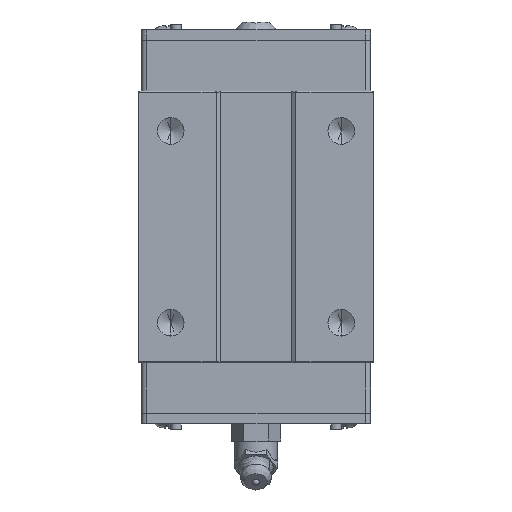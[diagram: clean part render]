
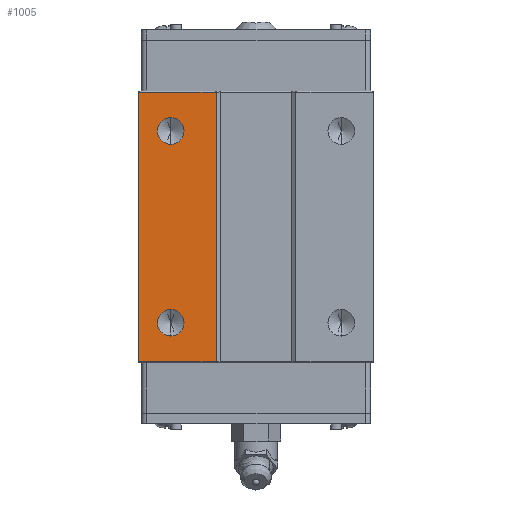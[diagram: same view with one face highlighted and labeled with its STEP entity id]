
A CAD part, front view. The second image highlights one B-rep face of the part: STEP entity #1005.
In plain terms, the highlighted planar face has unit normal (0, -1, 0).
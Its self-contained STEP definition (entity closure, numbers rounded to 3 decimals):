
#11 = VECTOR ( 'NONE', #7289, 1000. ) ;
#72 = EDGE_CURVE ( 'NONE', #8684, #17659, #15388, .T. ) ;
#131 = CARTESIAN_POINT ( 'NONE',  ( -16., -13., -18. ) ) ;
#327 = ORIENTED_EDGE ( 'NONE', *, *, #72, .T. ) ;
#700 = PLANE ( 'NONE',  #3547 ) ;
#963 = VECTOR ( 'NONE', #8181, 1000. ) ;
#1005 = ADVANCED_FACE ( 'NONE', ( #10201, #18131, #1628 ), #700, .F. ) ;
#1223 = CARTESIAN_POINT ( 'NONE',  ( 0., -13., -25.3 ) ) ;
#1494 = VERTEX_POINT ( 'NONE', #9854 ) ;
#1628 = FACE_OUTER_BOUND ( 'NONE', #9961, .T. ) ;
#1631 = EDGE_CURVE ( 'NONE', #1494, #2224, #10178, .T. ) ;
#1644 = DIRECTION ( 'NONE',  ( 0., 0., -1. ) ) ;
#1913 = EDGE_LOOP ( 'NONE', ( #15337, #14703 ) ) ;
#2189 = DIRECTION ( 'NONE',  ( 0., 0., 1. ) ) ;
#2224 = VERTEX_POINT ( 'NONE', #13749 ) ;
#2395 = AXIS2_PLACEMENT_3D ( 'NONE', #14285, #5325, #15769 ) ;
#3547 = AXIS2_PLACEMENT_3D ( 'NONE', #18531, #14064, #2189 ) ;
#3708 = LINE ( 'NONE', #16995, #7650 ) ;
#3715 = CIRCLE ( 'NONE', #5690, 2.5 ) ;
#5183 = EDGE_CURVE ( 'NONE', #10127, #6584, #17322, .T. ) ;
#5325 = DIRECTION ( 'NONE',  ( 0., -1., 0. ) ) ;
#5653 = DIRECTION ( 'NONE',  ( 0., -1., 0. ) ) ;
#5690 = AXIS2_PLACEMENT_3D ( 'NONE', #14608, #5653, #16101 ) ;
#6053 = CARTESIAN_POINT ( 'NONE',  ( -16., -13., 18. ) ) ;
#6378 = CARTESIAN_POINT ( 'NONE',  ( -16., -13., -15.5 ) ) ;
#6423 = CIRCLE ( 'NONE', #16656, 2.5 ) ;
#6584 = VERTEX_POINT ( 'NONE', #6378 ) ;
#6817 = EDGE_CURVE ( 'NONE', #9338, #11602, #8331, .T. ) ;
#7289 = DIRECTION ( 'NONE',  ( -1., 0., 0. ) ) ;
#7549 = DIRECTION ( 'NONE',  ( 0., 0., -1. ) ) ;
#7650 = VECTOR ( 'NONE', #9464, 1000. ) ;
#8181 = DIRECTION ( 'NONE',  ( 0., 0., 1. ) ) ;
#8331 = CIRCLE ( 'NONE', #2395, 2.5 ) ;
#8684 = VERTEX_POINT ( 'NONE', #11476 ) ;
#8780 = CARTESIAN_POINT ( 'NONE',  ( -22., -13., 25.3 ) ) ;
#9338 = VERTEX_POINT ( 'NONE', #16545 ) ;
#9464 = DIRECTION ( 'NONE',  ( 0., 0., 1. ) ) ;
#9594 = ORIENTED_EDGE ( 'NONE', *, *, #12526, .T. ) ;
#9717 = VECTOR ( 'NONE', #13144, 1000. ) ;
#9854 = CARTESIAN_POINT ( 'NONE',  ( -22., -13., -25.3 ) ) ;
#9961 = EDGE_LOOP ( 'NONE', ( #13065, #17246, #9594, #327 ) ) ;
#10127 = VERTEX_POINT ( 'NONE', #18770 ) ;
#10178 = LINE ( 'NONE', #1223, #9717 ) ;
#10201 = FACE_BOUND ( 'NONE', #10844, .T. ) ;
#10513 = DIRECTION ( 'NONE',  ( 0., -1., 0. ) ) ;
#10844 = EDGE_LOOP ( 'NONE', ( #14895, #12100 ) ) ;
#11117 = CARTESIAN_POINT ( 'NONE',  ( -7.5, -13., -25.5 ) ) ;
#11476 = CARTESIAN_POINT ( 'NONE',  ( -7.5, -13., 25.3 ) ) ;
#11602 = VERTEX_POINT ( 'NONE', #17106 ) ;
#12100 = ORIENTED_EDGE ( 'NONE', *, *, #6817, .F. ) ;
#12526 = EDGE_CURVE ( 'NONE', #2224, #8684, #16809, .T. ) ;
#13065 = ORIENTED_EDGE ( 'NONE', *, *, #13101, .F. ) ;
#13101 = EDGE_CURVE ( 'NONE', #1494, #17659, #3708, .T. ) ;
#13144 = DIRECTION ( 'NONE',  ( 1., 0., 0. ) ) ;
#13733 = EDGE_CURVE ( 'NONE', #6584, #10127, #3715, .T. ) ;
#13749 = CARTESIAN_POINT ( 'NONE',  ( -7.5, -13., -25.3 ) ) ;
#14064 = DIRECTION ( 'NONE',  ( 0., 1., 0. ) ) ;
#14285 = CARTESIAN_POINT ( 'NONE',  ( -16., -13., 18. ) ) ;
#14608 = CARTESIAN_POINT ( 'NONE',  ( -16., -13., -18. ) ) ;
#14703 = ORIENTED_EDGE ( 'NONE', *, *, #13733, .F. ) ;
#14895 = ORIENTED_EDGE ( 'NONE', *, *, #17678, .F. ) ;
#15337 = ORIENTED_EDGE ( 'NONE', *, *, #5183, .F. ) ;
#15388 = LINE ( 'NONE', #16467, #11 ) ;
#15769 = DIRECTION ( 'NONE',  ( 0., 0., -1. ) ) ;
#16101 = DIRECTION ( 'NONE',  ( 0., 0., -1. ) ) ;
#16467 = CARTESIAN_POINT ( 'NONE',  ( 0., -13., 25.3 ) ) ;
#16497 = DIRECTION ( 'NONE',  ( 0., -1., 0. ) ) ;
#16545 = CARTESIAN_POINT ( 'NONE',  ( -16., -13., 20.5 ) ) ;
#16656 = AXIS2_PLACEMENT_3D ( 'NONE', #6053, #16497, #7549 ) ;
#16809 = LINE ( 'NONE', #11117, #963 ) ;
#16995 = CARTESIAN_POINT ( 'NONE',  ( -22., -13., -25.5 ) ) ;
#17106 = CARTESIAN_POINT ( 'NONE',  ( -16., -13., 15.5 ) ) ;
#17246 = ORIENTED_EDGE ( 'NONE', *, *, #1631, .T. ) ;
#17322 = CIRCLE ( 'NONE', #17895, 2.5 ) ;
#17659 = VERTEX_POINT ( 'NONE', #8780 ) ;
#17678 = EDGE_CURVE ( 'NONE', #11602, #9338, #6423, .T. ) ;
#17895 = AXIS2_PLACEMENT_3D ( 'NONE', #131, #10513, #1644 ) ;
#18131 = FACE_BOUND ( 'NONE', #1913, .T. ) ;
#18531 = CARTESIAN_POINT ( 'NONE',  ( 0., -13., 0. ) ) ;
#18770 = CARTESIAN_POINT ( 'NONE',  ( -16., -13., -20.5 ) ) ;
